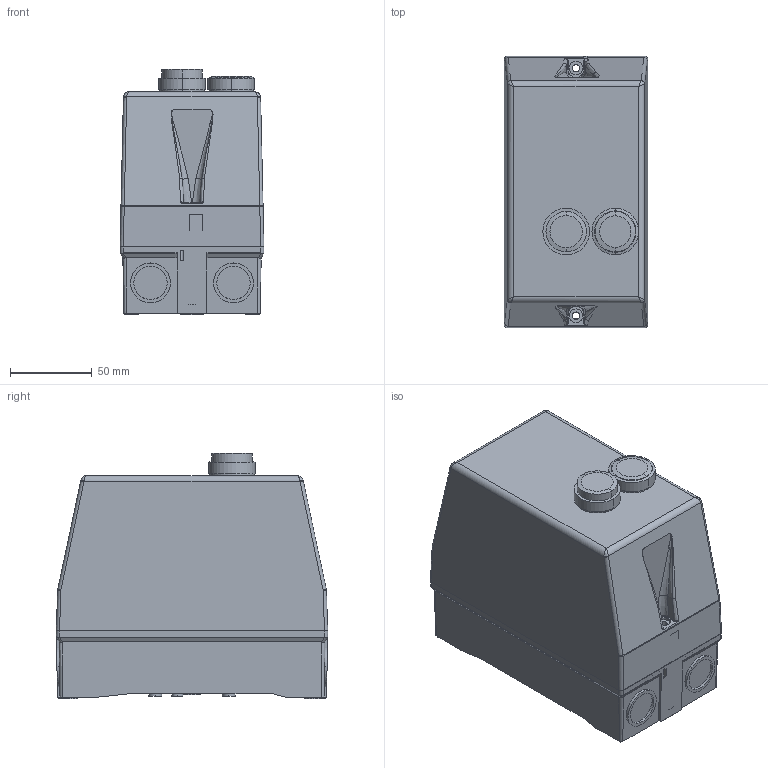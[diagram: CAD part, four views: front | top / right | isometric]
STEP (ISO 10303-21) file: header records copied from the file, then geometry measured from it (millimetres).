
FILE_DESCRIPTION((''),'2;1');
FILE_NAME('LE1D12P7_ASM','2017-11-10T',('SESA468396'),('Schneider-Electric'),'PRO/ENGINEER BY PARAMETRIC TECHNOLOGY CORPORATION, 2015440','PRO/ENGINEER BY PARAMETRIC TECHNOLOGY CORPORATION, 2015440','');
FILE_SCHEMA(('CONFIG_CONTROL_DESIGN'));
Products named in the file (3): LE1D12P7_COFFRET; LE1D12P7_BOITIER_COMMANDE; LE1D12P7_ASM
Assembly tree (2 placements, depth 2):
  LE1D12P7_ASM
    LE1D12P7_COFFRET
    LE1D12P7_BOITIER_COMMANDE
Bounding box: 88 x 166 x 150.23 mm (x, y, z)
Volume: 594989.8 mm3; surface area: 274566.1 mm2
Topology: 4 solids, 6 shells, 1715 faces, 4541 edges, 2944 vertices
Faces by surface type: plane 993, cylinder 564, bspline 56, torus 30, cone 29, extrusion 29, sphere 14
Entity records: 58295 total; most frequent: CARTESIAN_POINT 15515, ORIENTED_EDGE 9074, DIRECTION 8600, EDGE_CURVE 4537, VECTOR 3118, LINE 3089, VERTEX_POINT 2944, AXIS2_PLACEMENT_3D 2741
